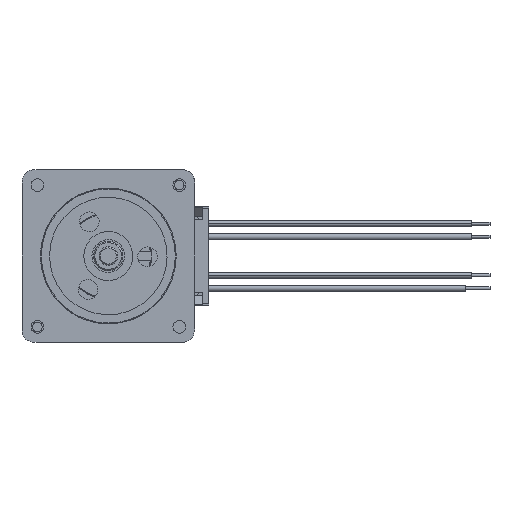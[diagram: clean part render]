
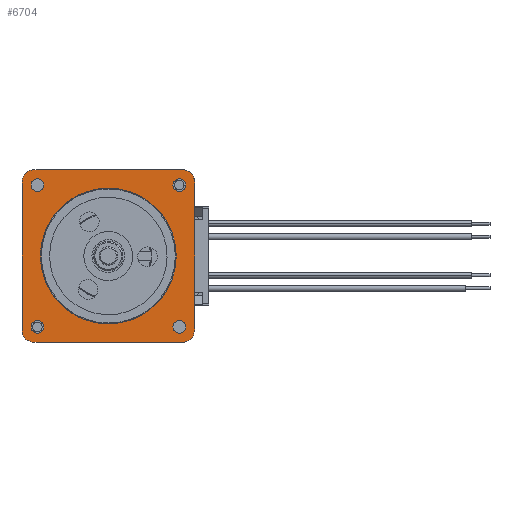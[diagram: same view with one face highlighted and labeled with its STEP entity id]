
A CAD part, left-side view. The second image highlights one B-rep face of the part: STEP entity #6704.
In plain terms, the highlighted planar face has unit normal (-1, 0, 0).
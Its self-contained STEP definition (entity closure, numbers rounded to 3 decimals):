
#6552=CARTESIAN_POINT('',(0.,-11.7,14.));
#6553=VERTEX_POINT('',#6552);
#6554=CARTESIAN_POINT('',(0.,-14.,11.7));
#6555=VERTEX_POINT('',#6554);
#6556=CARTESIAN_POINT('',(0.,-11.7,14.));
#6557=CARTESIAN_POINT('',(0.,-14.,14.));
#6558=CARTESIAN_POINT('',(0.,-14.,11.7));
#6559=B_SPLINE_CURVE_WITH_KNOTS('',2,(#6556,#6557,#6558),.UNSPECIFIED.,.F.,.U.,(3,3),(0.,1.),.UNSPECIFIED.);
#6560=EDGE_CURVE('',#6553,#6555,#6559,.T.);
#6587=CARTESIAN_POINT('',(0.,0.,0.));
#6588=DIRECTION('',(0.,0.,-1.));
#6589=DIRECTION('',(-1.,0.,0.));
#6590=AXIS2_PLACEMENT_3D('',#6587,#6589,#6588);
#6591=PLANE('',#6590);
#6592=CARTESIAN_POINT('',(0.,11.7,-14.));
#6593=VERTEX_POINT('',#6592);
#6594=CARTESIAN_POINT('',(0.,-11.7,-14.));
#6595=VERTEX_POINT('',#6594);
#6596=CARTESIAN_POINT('',(0.,11.7,-14.));
#6597=DIRECTION('',(0.,-1.,0.));
#6598=VECTOR('',#6597,23.4);
#6599=LINE('',#6596,#6598);
#6600=EDGE_CURVE('',#6593,#6595,#6599,.T.);
#6601=ORIENTED_EDGE('E611',*,*,#6600,.T.);
#6602=CARTESIAN_POINT('',(0.,-14.,-11.7));
#6603=VERTEX_POINT('',#6602);
#6604=CARTESIAN_POINT('',(0.,-11.7,-14.));
#6605=CARTESIAN_POINT('',(0.,-14.,-14.));
#6606=CARTESIAN_POINT('',(0.,-14.,-11.7));
#6607=B_SPLINE_CURVE_WITH_KNOTS('',2,(#6604,#6605,#6606),.UNSPECIFIED.,.F.,.U.,(3,3),(0.,1.),.UNSPECIFIED.);
#6608=EDGE_CURVE('',#6595,#6603,#6607,.T.);
#6609=ORIENTED_EDGE('E612',*,*,#6608,.T.);
#6610=CARTESIAN_POINT('',(0.,-14.,-11.7));
#6611=DIRECTION('',(0.,0.,1.));
#6612=VECTOR('',#6611,23.4);
#6613=LINE('',#6610,#6612);
#6614=EDGE_CURVE('',#6603,#6555,#6613,.T.);
#6615=ORIENTED_EDGE('E613',*,*,#6614,.T.);
#6616=ORIENTED_EDGE('E613',*,*,#6560,.F.);
#6617=CARTESIAN_POINT('',(0.,11.7,14.));
#6618=VERTEX_POINT('',#6617);
#6619=CARTESIAN_POINT('',(0.,-11.7,14.));
#6620=DIRECTION('',(0.,1.,0.));
#6621=VECTOR('',#6620,23.4);
#6622=LINE('',#6619,#6621);
#6623=EDGE_CURVE('',#6553,#6618,#6622,.T.);
#6624=ORIENTED_EDGE('E614',*,*,#6623,.T.);
#6625=CARTESIAN_POINT('',(0.,14.,11.7));
#6626=VERTEX_POINT('',#6625);
#6627=CARTESIAN_POINT('',(0.,11.7,14.));
#6628=CARTESIAN_POINT('',(0.,14.,14.));
#6629=CARTESIAN_POINT('',(0.,14.,11.7));
#6630=B_SPLINE_CURVE_WITH_KNOTS('',2,(#6627,#6628,#6629),.UNSPECIFIED.,.F.,.U.,(3,3),(0.,1.),.UNSPECIFIED.);
#6631=EDGE_CURVE('',#6618,#6626,#6630,.T.);
#6632=ORIENTED_EDGE('E615',*,*,#6631,.T.);
#6633=CARTESIAN_POINT('',(0.,14.,-11.7));
#6634=VERTEX_POINT('',#6633);
#6635=CARTESIAN_POINT('',(0.,14.,11.7));
#6636=DIRECTION('',(0.,0.,-1.));
#6637=VECTOR('',#6636,23.4);
#6638=LINE('',#6635,#6637);
#6639=EDGE_CURVE('',#6626,#6634,#6638,.T.);
#6640=ORIENTED_EDGE('E616',*,*,#6639,.T.);
#6641=CARTESIAN_POINT('',(0.,14.,-11.7));
#6642=CARTESIAN_POINT('',(0.,14.,-14.));
#6643=CARTESIAN_POINT('',(0.,11.7,-14.));
#6644=B_SPLINE_CURVE_WITH_KNOTS('',2,(#6641,#6642,#6643),.UNSPECIFIED.,.F.,.U.,(3,3),(0.,1.),.UNSPECIFIED.);
#6645=EDGE_CURVE('',#6634,#6593,#6644,.T.);
#6646=ORIENTED_EDGE('E617',*,*,#6645,.T.);
#6647=EDGE_LOOP('',(#6601,#6609,#6615,#6616,#6624,#6632,#6640,#6646));
#6648=FACE_OUTER_BOUND('',#6647,.T.);
#6649=CARTESIAN_POINT('',(0.,-11.5,12.525));
#6650=VERTEX_POINT('',#6649);
#6651=CARTESIAN_POINT('',(0.,-11.5,11.5));
#6652=DIRECTION('',(0.,0.,1.));
#6653=DIRECTION('',(1.,0.,0.));
#6654=AXIS2_PLACEMENT_3D('',#6651,#6653,#6652);
#6655=CIRCLE('',#6654,1.025);
#6656=EDGE_CURVE('',#6650,#6650,#6655,.T.);
#6657=ORIENTED_EDGE('E618',*,*,#6656,.T.);
#6658=EDGE_LOOP('',(#6657));
#6659=FACE_BOUND('',#6658,.T.);
#6660=CARTESIAN_POINT('',(0.,11.5,12.525));
#6661=VERTEX_POINT('',#6660);
#6662=CARTESIAN_POINT('',(0.,11.5,11.5));
#6663=DIRECTION('',(-0.,0.,1.));
#6664=DIRECTION('',(1.,0.,0.));
#6665=AXIS2_PLACEMENT_3D('',#6662,#6664,#6663);
#6666=CIRCLE('',#6665,1.025);
#6667=EDGE_CURVE('',#6661,#6661,#6666,.T.);
#6668=ORIENTED_EDGE('E619',*,*,#6667,.T.);
#6669=EDGE_LOOP('',(#6668));
#6670=FACE_BOUND('',#6669,.T.);
#6671=CARTESIAN_POINT('',(0.,-11.5,-10.475));
#6672=VERTEX_POINT('',#6671);
#6673=CARTESIAN_POINT('',(0.,-11.5,-11.5));
#6674=DIRECTION('',(0.,0.,1.));
#6675=DIRECTION('',(1.,0.,0.));
#6676=AXIS2_PLACEMENT_3D('',#6673,#6675,#6674);
#6677=CIRCLE('',#6676,1.025);
#6678=EDGE_CURVE('',#6672,#6672,#6677,.T.);
#6679=ORIENTED_EDGE('E620',*,*,#6678,.T.);
#6680=EDGE_LOOP('',(#6679));
#6681=FACE_BOUND('',#6680,.T.);
#6682=CARTESIAN_POINT('',(0.,11.5,-10.475));
#6683=VERTEX_POINT('',#6682);
#6684=CARTESIAN_POINT('',(0.,11.5,-11.5));
#6685=DIRECTION('',(0.,0.,1.));
#6686=DIRECTION('',(1.,0.,0.));
#6687=AXIS2_PLACEMENT_3D('',#6684,#6686,#6685);
#6688=CIRCLE('',#6687,1.025);
#6689=EDGE_CURVE('',#6683,#6683,#6688,.T.);
#6690=ORIENTED_EDGE('E621',*,*,#6689,.T.);
#6691=EDGE_LOOP('',(#6690));
#6692=FACE_BOUND('',#6691,.T.);
#6693=CARTESIAN_POINT('',(0.,0.,-11.));
#6694=VERTEX_POINT('',#6693);
#6695=CARTESIAN_POINT('',(0.,0.,0.));
#6696=DIRECTION('',(0.,0.,-1.));
#6697=DIRECTION('',(1.,0.,0.));
#6698=AXIS2_PLACEMENT_3D('',#6695,#6697,#6696);
#6699=CIRCLE('',#6698,11.);
#6700=EDGE_CURVE('',#6694,#6694,#6699,.T.);
#6701=ORIENTED_EDGE('E622',*,*,#6700,.T.);
#6702=EDGE_LOOP('',(#6701));
#6703=FACE_BOUND('',#6702,.T.);
#6704=ADVANCED_FACE('F186',(#6648,#6659,#6670,#6681,#6692,#6703),#6591,.T.);
